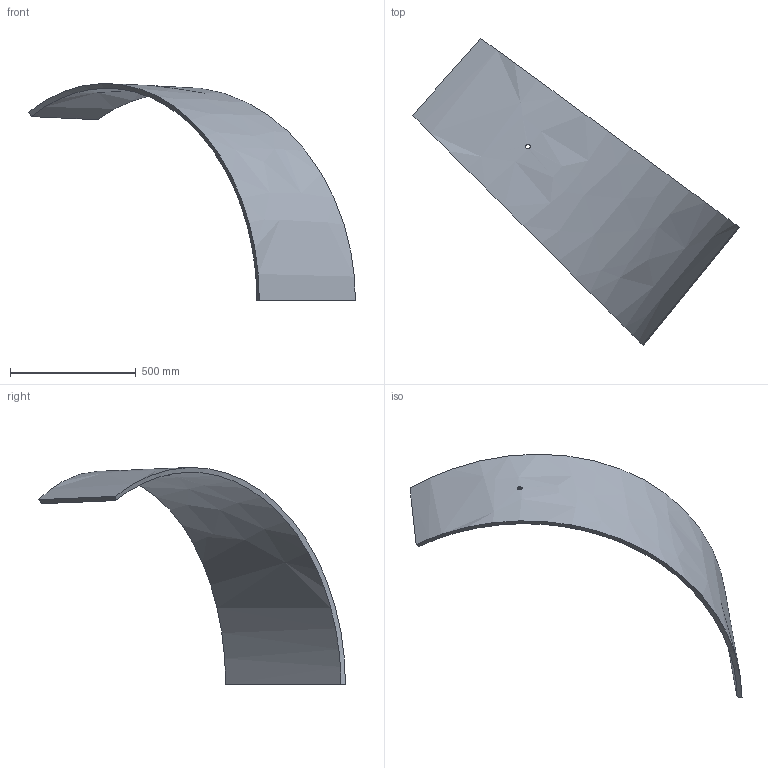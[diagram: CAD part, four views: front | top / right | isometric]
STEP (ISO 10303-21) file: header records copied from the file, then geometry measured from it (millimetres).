
FILE_DESCRIPTION (( 'STEP AP214' ), '1' );
FILE_NAME ('P8.2Mirror.STEP', '2025-01-09T19:43:28', ( '' ), ( '' ), 'SwSTEP 2.0', 'SolidWorks 2024', '' );
FILE_SCHEMA (( 'AUTOMOTIVE_DESIGN' ));
Length unit declared in the file: inch
Products named in the file (1): P8.2Mirror
Bounding box: 1301.54 x 1222.57 x 864.12 mm (x, y, z)
Volume: 18284924.7 mm3; surface area: 1937611.5 mm2
Topology: 1 solids, 1 shells, 8 faces, 18 edges, 12 vertices
Faces by surface type: bspline 7, cylinder 1
Full cylindrical faces by diameter (mm): 19.431 x1
Entity records: 2953 total; most frequent: CARTESIAN_POINT 2805, ORIENTED_EDGE 30, EDGE_CURVE 15, B_SPLINE_CURVE_WITH_KNOTS 15, EDGE_LOOP 12, VERTEX_POINT 11, FACE_OUTER_BOUND 10, ADVANCED_FACE 8
